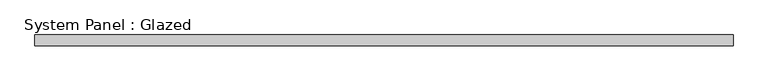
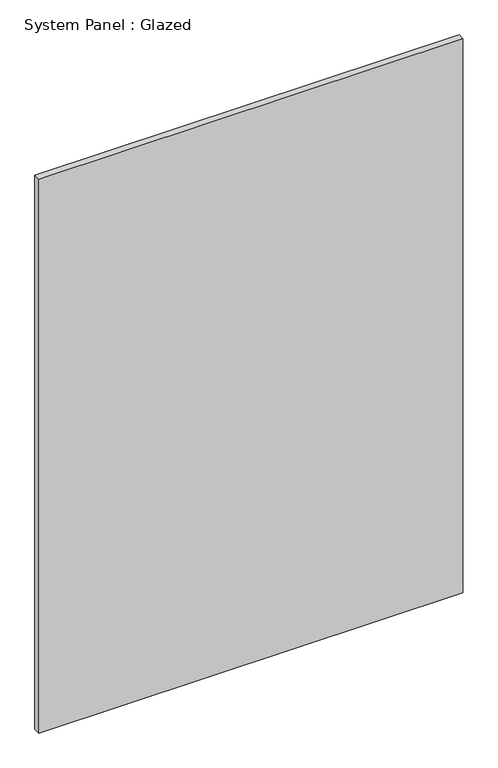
"""IFC4 building model written with IfcOpenShell, lengths in millimetres: plate geometry, System Panel : Glazed."""

from ifc_helpers import new_model, si_unit, origin, origin_with_axes, place, context, project, spatial, polyline, outline, extrude, source, transform, mapped, element, save


def system_panel_glazed_707fa540(model_context):
    return source(origin(), model_context, "Body", "SweptSolid", [
        extrude(outline(polyline([(806.0, 24.5), (-806.0, 24.5), (-806.0, 49.5), (806.0, 49.5), (806.0, 24.5)])), origin_with_axes(), (0.0, 0.0, 1.0), 2225.0),
    ])


if __name__ == "__main__":
    model = new_model("IFC4")
    model_context = context("Model", 3, world=origin())
    ifc_project = project(units=[si_unit("LENGTHUNIT", "METRE", prefix="MILLI")], contexts=[model_context])
    site = spatial("IfcSite", under=ifc_project)
    building = spatial("IfcBuilding", under=site)
    placement = place(None, origin())
    system_panel_glazed_shape = system_panel_glazed_707fa540(model_context)
    element("IfcPlate", 1, ObjectType="System Panel : Glazed", at=placement, inside=building, context=model_context, shape_type="MappedRepresentation", body=[
        mapped(system_panel_glazed_shape, transform((0.0, 0.0, 0.0), x_axis=(1.0, 0.0, 0.0), y_axis=(0.0, 1.0, 0.0), z_axis=(0.0, 0.0, 1.0))),
    ])
    save(model, "model.ifc")
